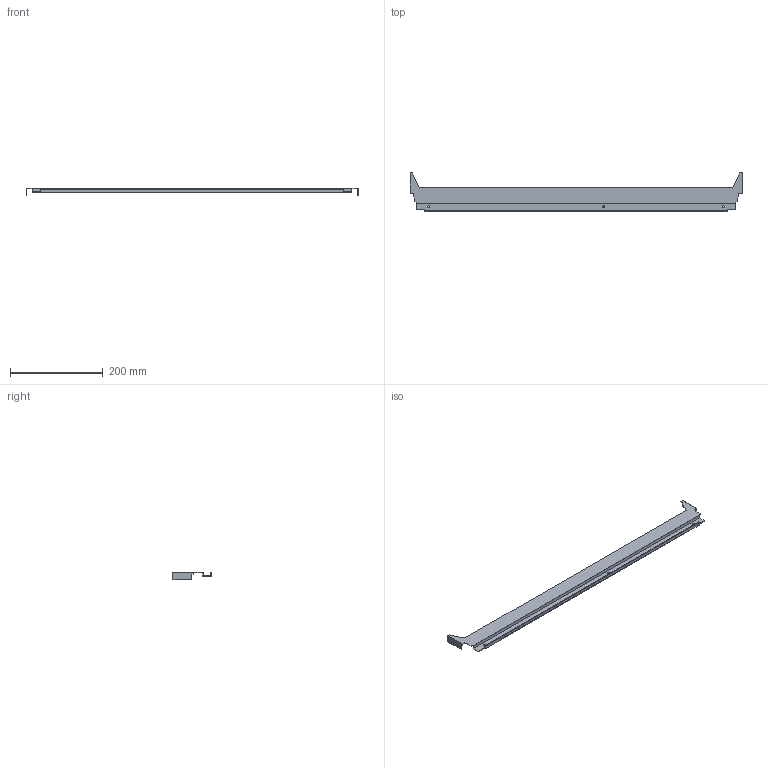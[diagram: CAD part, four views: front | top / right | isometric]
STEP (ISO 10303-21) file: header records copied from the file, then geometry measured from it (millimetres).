
FILE_DESCRIPTION (( 'STEP AP214' ), '1' );
FILE_NAME ('_DWD_XP Stahlrückwand_H86_KAB800_S16.step', '2010-07-08T12:00:22', ( 'grass' ), ( '' ), 'SwSTEP 2.0', 'SolidWorks 2010', '' );
FILE_SCHEMA (( 'AUTOMOTIVE_DESIGN' ));
Length unit declared in the file: millimetre
Products named in the file (1): _DWD_XP Stahlrückwand_H86_KAB800_S16
Bounding box: 717 x 83.29 x 16 mm (x, y, z)
Volume: 48748.4 mm3; surface area: 96722 mm2
Topology: 1 solids, 1 shells, 50 faces, 144 edges, 96 vertices
Faces by surface type: plane 44, cylinder 6
Entity records: 1666 total; most frequent: CARTESIAN_POINT 291, ORIENTED_EDGE 288, DIRECTION 258, EDGE_CURVE 144, LINE 132, VECTOR 132, VERTEX_POINT 96, AXIS2_PLACEMENT_3D 63
